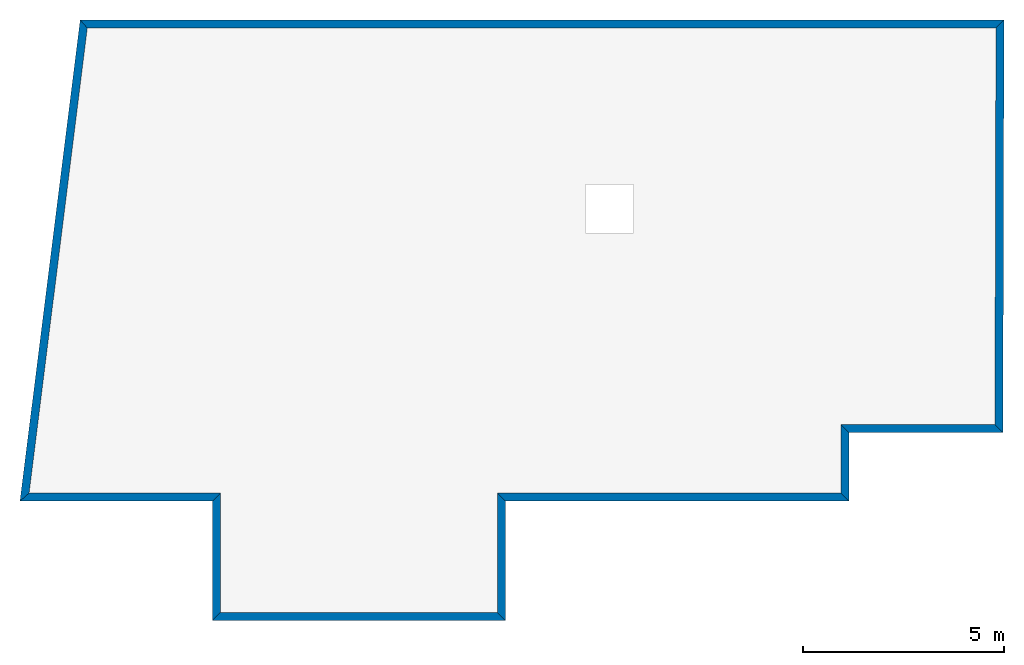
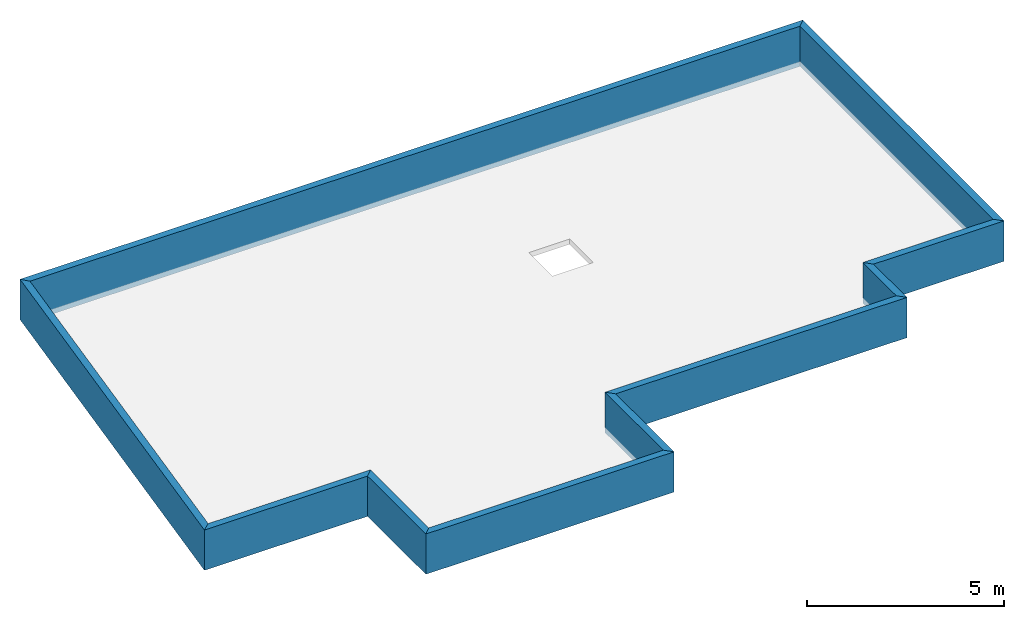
# One storey, part 1 of 2: 10 walls.
"""IFC2X3 building model written with IfcOpenShell, lengths in metres."""

import ifcopenshell
import ifcopenshell.guid

model = None  # the IFC model being written
_history = None  # IfcOwnerHistory: only IFC2X3 demands one
_inside = {}  # id of a spatial element -> (the spatial element, [elements in it])
_under = {}  # id of a project, library or spatial element -> (it, [spatial elements below it])
_declared = {}  # id of a project -> (the project, [libraries it declares])
_typed = {}  # id of a type object -> (the type object, [elements of that type])
_made_of = {}  # id of a material, layer set ... -> (it, [elements and type objects made of it])


def new_model(schema):
    """Start an empty IFC model of exactly this schema.

    Asked for "IFC4X3", IfcOpenShell would pick the latest addendum, in which some entities
    have other attributes; the version numbers below select the first issue.
    IFC2X3 requires an IfcOwnerHistory on every rooted entity: one is made here for all.
    """
    global model, _history
    if schema == "IFC4X3":
        model = ifcopenshell.file(schema_version=(4, 3, 0, 0))
    else:
        model = ifcopenshell.file(schema=schema)
    _inside.clear()
    _under.clear()
    _declared.clear()
    _typed.clear()
    _made_of.clear()
    _history = None
    if model.schema == "IFC2X3":
        org = make("IfcOrganization", Name="unknown")
        user = make(
            "IfcPersonAndOrganization",
            ThePerson=make("IfcPerson", FamilyName="unknown"),
            TheOrganization=org,
        )
        app = make(
            "IfcApplication",
            ApplicationDeveloper=org,
            Version="unknown",
            ApplicationFullName="unknown",
            ApplicationIdentifier="unknown",
        )
        _history = make(
            "IfcOwnerHistory",
            OwningUser=user,
            OwningApplication=app,
            ChangeAction="ADDED",
            CreationDate=0,
        )
    return model


def make(cls, **values):
    """One entity of the class cls with the attributes given. An attribute that is None is left unset."""
    return model.create_entity(
        cls, **{name: value for name, value in values.items() if value is not None}
    )


def rooted(cls, **values):
    """An entity with a GlobalId (a new one), such as an element, a storey or a relation."""
    return make(cls, GlobalId=ifcopenshell.guid.new(), OwnerHistory=_history, **values)


def si_unit(unit_type, name, prefix=None):
    """IfcSIUnit, for example si_unit("LENGTHUNIT", "METRE", prefix="MILLI")."""
    return make("IfcSIUnit", UnitType=unit_type, Prefix=prefix, Name=name)


def assignment(units):
    """IfcUnitAssignment: the units of a project."""
    return None if units is None else make("IfcUnitAssignment", Units=units)


def point(xyz):
    """IfcCartesianPoint."""
    return None if xyz is None else make("IfcCartesianPoint", Coordinates=xyz)


def direction(xyz):
    """IfcDirection."""
    return None if xyz is None else make("IfcDirection", DirectionRatios=xyz)


def frame(location, z_axis=None, x_axis=None):
    """IfcAxis2Placement3D, a coordinate frame: its origin and axes. An axis left out is left unset."""
    return make(
        "IfcAxis2Placement3D",
        Location=point(location),
        Axis=direction(z_axis),
        RefDirection=direction(x_axis),
    )


def origin_with_axes():
    """The frame at (0, 0, 0) with the z axis (0, 0, 1) and the x axis (1, 0, 0) written out."""
    return frame((0.0, 0.0, 0.0), z_axis=(0.0, 0.0, 1.0), x_axis=(1.0, 0.0, 0.0))


def place(relative_to, where):
    """IfcLocalPlacement: puts the frame where relative to a parent placement (None: the world)."""
    return make(
        "IfcLocalPlacement", PlacementRelTo=relative_to, RelativePlacement=where
    )


def context(
    kind, dimensions, precision=None, world=None, true_north=None, identifier=None
):
    """IfcGeometricRepresentationContext, for example the 3D "Model" context."""
    return make(
        "IfcGeometricRepresentationContext",
        ContextIdentifier=identifier,
        ContextType=kind,
        CoordinateSpaceDimension=dimensions,
        Precision=precision,
        WorldCoordinateSystem=world,
        TrueNorth=true_north,
    )


def subcontext(parent, identifier, kind, view, scale=None):
    """IfcGeometricRepresentationSubContext, for example "Body" below "Model"."""
    return make(
        "IfcGeometricRepresentationSubContext",
        ContextIdentifier=identifier,
        ContextType=kind,
        ParentContext=parent,
        TargetScale=scale,
        TargetView=view,
    )


def project(units=None, contexts=None):
    """IfcProject with its units and contexts."""
    return rooted(
        "IfcProject",
        Name="project",
        RepresentationContexts=contexts,
        UnitsInContext=assignment(units),
    )


def spatial(cls, under=None, at=None, **own):
    """A site, building, storey or space (cls), placed at a placement, below another one or the project."""
    s = rooted(cls, ObjectPlacement=at, **own)
    if under is not None:
        _under.setdefault(under.id(), (under, []))[1].append(s)
    return s


def polyline(points):
    """IfcPolyline through the points."""
    return make("IfcPolyline", Points=[point(p) for p in points])


def outline(outer, holes=None, kind="AREA"):
    """IfcArbitraryClosedProfileDef: a profile drawn as a closed curve; with holes, ...WithVoids."""
    if holes is None:
        return make("IfcArbitraryClosedProfileDef", ProfileType=kind, OuterCurve=outer)
    return make(
        "IfcArbitraryProfileDefWithVoids",
        ProfileType=kind,
        OuterCurve=outer,
        InnerCurves=holes,
    )


def extrude(swept, where, along, depth):
    """IfcExtrudedAreaSolid: the profile swept, set in the frame where, extruded along a direction by depth."""
    return make(
        "IfcExtrudedAreaSolid",
        SweptArea=swept,
        Position=where,
        ExtrudedDirection=direction(along),
        Depth=depth,
    )


def shape(context_of_items, identifier, shape_type, items):
    """IfcShapeRepresentation: the items that make up one representation, for example the "Body"."""
    return make(
        "IfcShapeRepresentation",
        ContextOfItems=context_of_items,
        RepresentationIdentifier=identifier,
        RepresentationType=shape_type,
        Items=items,
    )


def material(Name=None, Category=None):
    """IfcMaterial."""
    return make("IfcMaterial", Name=Name, Category=Category)


def layer(
    of_material, thickness, ventilated=None, Name=None, Category=None, Priority=None
):
    """IfcMaterialLayer: one layer of a wall or slab, of a material (None: an air gap)."""
    return make(
        "IfcMaterialLayer",
        Material=of_material,
        LayerThickness=thickness,
        IsVentilated=ventilated,
        Name=Name,
        Category=Category,
        Priority=Priority,
    )


def layer_set(layers, Name=None):
    """IfcMaterialLayerSet."""
    return make("IfcMaterialLayerSet", MaterialLayers=layers, LayerSetName=Name)


def layer_usage(for_layer_set, set_direction, sense, offset, extent=None):
    """IfcMaterialLayerSetUsage: how a layer set lies in its element."""
    return make(
        "IfcMaterialLayerSetUsage",
        ForLayerSet=for_layer_set,
        LayerSetDirection=set_direction,
        DirectionSense=sense,
        OffsetFromReferenceLine=offset,
        ReferenceExtent=extent,
    )


def made_of(thing, what):
    """Note that an element or type object is made of a material, layer set ...; save() writes the relation."""
    if what is not None:
        _made_of.setdefault(what.id(), (what, []))[1].append(thing)
    return thing


def type_object(cls, material=None, **own):
    """A type object (cls), such as IfcWallType, which elements share."""
    return made_of(rooted(cls, **own), material)


def element(
    cls,
    number,
    at=None,
    inside=None,
    cuts=None,
    type_object=None,
    material=None,
    context=None,
    identifier="Body",
    shape_type=None,
    held_by="IfcProductDefinitionShape",
    body=None,
    shapes=None,
    **own,
):
    """One element of the class cls, such as IfcWall. Its Tag is "e" and its number.

    at: its placement. inside: the storey or other place that contains it. cuts: it is an
    opening in that element (IfcRelVoidsElement). A single representation is given by context,
    identifier, shape_type and body (its items); several are given by shapes. held_by: the class
    of the entity that holds the representations. save() writes the other relations.
    """
    e = rooted(cls, Tag="e%d" % number, ObjectPlacement=at, **own)
    if body is not None:
        shapes = [shape(context, identifier, shape_type, body)]
    if shapes is not None:
        e.Representation = make(held_by, Representations=shapes)
    if inside is not None:
        _inside.setdefault(inside.id(), (inside, []))[1].append(e)
    if cuts is not None:
        rooted(
            "IfcRelVoidsElement", RelatingBuildingElement=cuts, RelatedOpeningElement=e
        )
    if type_object is not None:
        _typed.setdefault(type_object.id(), (type_object, []))[1].append(e)
    return made_of(e, material)


def aggregate(whole, parts):
    """IfcRelAggregates: a whole, such as a stair, and the parts it consists of."""
    return rooted("IfcRelAggregates", RelatingObject=whole, RelatedObjects=parts)


def save(model, path):
    """Write the relations noted so far, then the file.

    IfcRelAggregates (storeys below a building ...), IfcRelContainedInSpatialStructure (elements
    in a storey), IfcRelDefinesByType, IfcRelAssociatesMaterial and IfcRelDeclares: one each for
    every whole, place, type object, material and project.
    """
    for whole, parts in _under.values():
        aggregate(whole, parts)
    for where, things in _inside.values():
        rooted(
            "IfcRelContainedInSpatialStructure",
            RelatedElements=things,
            RelatingStructure=where,
        )
    for kind, things in _typed.values():
        rooted("IfcRelDefinesByType", RelatedObjects=things, RelatingType=kind)
    for what, things in _made_of.values():
        rooted("IfcRelAssociatesMaterial", RelatedObjects=things, RelatingMaterial=what)
    for by, libraries in _declared.values():
        rooted("IfcRelDeclares", RelatingContext=by, RelatedDefinitions=libraries)
    model.write(path)


model = new_model("IFC2X3")

# Units and contexts
model_context = context("Model", 3, precision=0.0001, world=origin_with_axes(), true_north=direction((0.0, 1.0)))
plan_context = context("Plan", 2, precision=0.0001, world=origin_with_axes(), true_north=direction((0.0, 1.0)))
body_context = subcontext(model_context, "Body", "Model", "MODEL_VIEW")
ifc_project = project(units=[si_unit("LENGTHUNIT", "METRE"), si_unit("AREAUNIT", "SQUARE_METRE"), si_unit("MASSUNIT", "GRAM", prefix="KILO"), si_unit("VOLUMEUNIT", "CUBIC_METRE")], contexts=[plan_context, model_context])

# Site, building, storey
site_placement = place(None, origin_with_axes())
site = spatial("IfcSite", under=ifc_project, at=site_placement, Name="$", CompositionType="ELEMENT")
building_placement = place(site_placement, origin_with_axes())
building = spatial("IfcBuilding", under=site, at=building_placement, Name="Classeur ENS Ensemble", CompositionType="ELEMENT")
storey_placement = place(building_placement, frame((-20.93597535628, -2.587550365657, 8.73), z_axis=(0.0, 0.0, 1.0), x_axis=(1.0, 0.0, 0.0)))
storey = spatial("IfcBuildingStorey", under=building, at=storey_placement, Name="004 Toiture Terrasse", CompositionType="ELEMENT", Elevation=8.73)

# Walls
ifc_material_1 = material(Name="acrotère Blocs à bancher 20 cm")
ifc_layer_1 = layer(ifc_material_1, 0.2000000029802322)
ifc_layer_set_1 = layer_set([ifc_layer_1], Name="acrotère Blocs à bancher 20 cm+")
ifc_layer_usage_1 = layer_usage(ifc_layer_set_1, "AXIS2", "POSITIVE", -0.1000000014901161)
wall_type = type_object("IfcWallType", PredefinedType="STANDARD")
wall_1_placement = place(storey_placement, frame((21.04189274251, 2.467550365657, 0.0), z_axis=(0.0, 0.0, 1.0), x_axis=(1.0, 0.0, 0.0)))
element("IfcWall", 1, at=wall_1_placement, inside=storey, type_object=wall_type, material=ifc_layer_usage_1, Name="acrotère Blocs à bancher 20 cm", context=body_context, shape_type="SweptSolid", held_by="IfcProductRepresentation", body=[
    extrude(outline(polyline([(-0.08826448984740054, 0.1000000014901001), (-0.08826448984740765, 0.1000000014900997), (-0.08826448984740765, 0.1000000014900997), (22.87530791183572, 0.1000000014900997), (22.87530791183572, 0.1000000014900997), (22.87530791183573, 0.1000000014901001), (22.67479912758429, -0.1000000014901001), (22.67479912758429, -0.1000000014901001), (22.67479912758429, -0.1000000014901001), (0.08826448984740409, -0.1000000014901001), (0.08826448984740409, -0.1000000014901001), (0.08826448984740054, -0.1000000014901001), (-0.08826448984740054, 0.1000000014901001)])), origin_with_axes(), (0.0, 0.0, 1.0), 1.25),
])
ifc_material_2 = material(Name="acrotère Blocs à bancher 20 cm")
ifc_layer_2 = layer(ifc_material_2, 0.2000000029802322)
ifc_layer_set_2 = layer_set([ifc_layer_2], Name="acrotère Blocs à bancher 20 cm+")
ifc_layer_usage_2 = layer_usage(ifc_layer_set_2, "AXIS2", "POSITIVE", -0.1000000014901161)
wall_2_placement = place(storey_placement, frame((43.79138714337, -7.592406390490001, 0.0), z_axis=(0.0, 0.0, 1.0), x_axis=(0.002540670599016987, 0.9999967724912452, 0.0)))
element("IfcWall", 2, at=wall_2_placement, inside=storey, type_object=wall_type, material=ifc_layer_usage_2, Name="acrotère Blocs à bancher 20 cm", context=body_context, shape_type="SweptSolid", held_by="IfcProductRepresentation", body=[
    extrude(outline(polyline([(0.09974625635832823, 0.1000000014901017), (0.09974625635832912, 0.1000000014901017), (0.09974625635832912, 0.1000000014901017), (9.95973483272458, 0.1000000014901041), (9.95973483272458, 0.1000000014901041), (9.95973483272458, 0.100000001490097), (10.16024361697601, -0.1000000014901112), (10.16024361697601, -0.1000000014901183), (10.16024361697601, -0.1000000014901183), (-0.09974625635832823, -0.1000000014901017), (-0.09974625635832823, -0.1000000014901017), (-0.09974625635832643, -0.1000000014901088), (0.09974625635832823, 0.1000000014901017)])), origin_with_axes(), (0.0, 0.0, 1.0), 1.25),
])
ifc_material_3 = material(Name="acrotère Blocs à bancher 20 cm")
ifc_layer_3 = layer(ifc_material_3, 0.2000000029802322)
ifc_layer_set_3 = layer_set([ifc_layer_3], Name="acrotère Blocs à bancher 20 cm+")
ifc_layer_usage_3 = layer_usage(ifc_layer_set_3, "AXIS2", "POSITIVE", -0.1000000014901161)
wall_3_placement = place(storey_placement, frame((39.96457268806, -7.592406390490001, 0.0), z_axis=(0.0, 0.0, 1.0), x_axis=(1.0, 0.0, 0.0)))
element("IfcWall", 3, at=wall_3_placement, inside=storey, type_object=wall_type, material=ifc_layer_usage_3, Name="acrotère Blocs à bancher 20 cm", context=body_context, shape_type="SweptSolid", held_by="IfcProductRepresentation", body=[
    extrude(outline(polyline([(-0.1000000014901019, 0.1000000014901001), (-0.1000000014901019, 0.1000000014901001), (-0.1000000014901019, 0.1000000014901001), (3.72706819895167, 0.100000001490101), (3.72706819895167, 0.100000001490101), (3.727068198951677, 0.1000000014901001), (3.926560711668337, -0.1000000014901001), (3.926560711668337, -0.1000000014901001), (3.926560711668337, -0.1000000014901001), (0.1000000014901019, -0.1000000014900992), (0.1000000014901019, -0.1000000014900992), (0.1000000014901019, -0.1000000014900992), (-0.1000000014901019, 0.1000000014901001)])), origin_with_axes(), (0.0, 0.0, 1.0), 1.25),
])
ifc_material_4 = material(Name="acrotère Blocs à bancher 20 cm")
ifc_layer_4 = layer(ifc_material_4, 0.2000000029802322)
ifc_layer_set_4 = layer_set([ifc_layer_4], Name="acrotère Blocs à bancher 20 cm+")
ifc_layer_usage_4 = layer_usage(ifc_layer_set_4, "AXIS2", "POSITIVE", -0.1000000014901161)
wall_4_placement = place(storey_placement, frame((39.96457268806, -9.292449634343, 0.0), z_axis=(0.0, 0.0, 1.0), x_axis=(0.0, 0.9999999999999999, 0.0)))
element("IfcWall", 4, at=wall_4_placement, inside=storey, type_object=wall_type, material=ifc_layer_usage_4, Name="acrotère Blocs à bancher 20 cm", context=body_context, shape_type="SweptSolid", held_by="IfcProductRepresentation", body=[
    extrude(outline(polyline([(0.1000000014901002, 0.1000000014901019), (0.1000000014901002, 0.1000000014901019), (0.1000000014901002, 0.1000000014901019), (1.800043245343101, 0.1000000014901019), (1.800043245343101, 0.1000000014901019), (1.800043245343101, 0.1000000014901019), (1.600043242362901, -0.1000000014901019), (1.600043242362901, -0.1000000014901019), (1.600043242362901, -0.1000000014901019), (-0.1000000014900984, -0.1000000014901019), (-0.1000000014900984, -0.1000000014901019), (-0.1000000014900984, -0.1000000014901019), (0.1000000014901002, 0.1000000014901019)])), origin_with_axes(), (0.0, 0.0, 1.0), 1.25),
])
ifc_material_5 = material(Name="acrotère Blocs à bancher 20 cm")
ifc_layer_5 = layer(ifc_material_5, 0.2000000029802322)
ifc_layer_set_5 = layer_set([ifc_layer_5], Name="acrotère Blocs à bancher 20 cm+")
ifc_layer_usage_5 = layer_usage(ifc_layer_set_5, "AXIS2", "POSITIVE", -0.1000000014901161)
wall_5_placement = place(storey_placement, frame((31.4214817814, -9.292449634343, 0.0), z_axis=(0.0, 0.0, 1.0), x_axis=(1.0, 0.0, 0.0)))
element("IfcWall", 5, at=wall_5_placement, inside=storey, type_object=wall_type, material=ifc_layer_usage_5, Name="acrotère Blocs à bancher 20 cm", context=body_context, shape_type="SweptSolid", held_by="IfcProductRepresentation", body=[
    extrude(outline(polyline([(-0.1000000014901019, 0.1000000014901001), (-0.1000000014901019, 0.1000000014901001), (-0.1000000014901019, 0.1000000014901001), (8.443090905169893, 0.1000000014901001), (8.443090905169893, 0.1000000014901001), (8.443090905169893, 0.1000000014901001), (8.643090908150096, -0.1000000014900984), (8.643090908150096, -0.1000000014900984), (8.643090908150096, -0.1000000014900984), (0.1000000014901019, -0.1000000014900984), (0.1000000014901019, -0.1000000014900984), (0.1000000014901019, -0.1000000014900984), (-0.1000000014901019, 0.1000000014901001)])), origin_with_axes(), (0.0, 0.0, 1.0), 1.25),
])
ifc_material_6 = material(Name="acrotère Blocs à bancher 20 cm")
ifc_layer_6 = layer(ifc_material_6, 0.2000000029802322)
ifc_layer_set_6 = layer_set([ifc_layer_6], Name="acrotère Blocs à bancher 20 cm+")
ifc_layer_usage_6 = layer_usage(ifc_layer_set_6, "AXIS2", "POSITIVE", -0.1000000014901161)
wall_6_placement = place(storey_placement, frame((31.4214817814, -12.25744963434, 0.0), z_axis=(0.0, 0.0, 1.0), x_axis=(0.0, 1.0, 0.0)))
element("IfcWall", 6, at=wall_6_placement, inside=storey, type_object=wall_type, material=ifc_layer_usage_6, Name="acrotère Blocs à bancher 20 cm", context=body_context, shape_type="SweptSolid", held_by="IfcProductRepresentation", body=[
    extrude(outline(polyline([(0.1000000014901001, 0.1000000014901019), (0.1000000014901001, 0.1000000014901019), (0.1000000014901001, 0.1000000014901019), (3.0650000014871, 0.1000000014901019), (3.0650000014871, 0.1000000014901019), (3.0650000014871, 0.1000000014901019), (2.864999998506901, -0.1000000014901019), (2.864999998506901, -0.1000000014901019), (2.864999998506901, -0.1000000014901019), (-0.1000000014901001, -0.1000000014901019), (-0.1000000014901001, -0.1000000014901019), (-0.1000000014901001, -0.1000000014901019), (0.1000000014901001, 0.1000000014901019)])), origin_with_axes(), (0.0, 0.0, 1.0), 1.25),
])
ifc_material_7 = material(Name="acrotère Blocs à bancher 20 cm")
ifc_layer_7 = layer(ifc_material_7, 0.2000000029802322)
ifc_layer_set_7 = layer_set([ifc_layer_7], Name="acrotère Blocs à bancher 20 cm+")
ifc_layer_usage_7 = layer_usage(ifc_layer_set_7, "AXIS2", "POSITIVE", -0.1000000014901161)
wall_7_placement = place(storey_placement, frame((24.3414817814, -12.25744963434, 0.0), z_axis=(0.0, 0.0, 1.0), x_axis=(1.0, 0.0, 0.0)))
element("IfcWall", 7, at=wall_7_placement, inside=storey, type_object=wall_type, material=ifc_layer_usage_7, Name="acrotère Blocs à bancher 20 cm", context=body_context, shape_type="SweptSolid", held_by="IfcProductRepresentation", body=[
    extrude(outline(polyline([(0.1000000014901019, 0.1000000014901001), (0.1000000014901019, 0.1000000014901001), (0.1000000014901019, 0.1000000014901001), (6.979999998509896, 0.1000000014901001), (6.979999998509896, 0.1000000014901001), (6.979999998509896, 0.1000000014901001), (7.1800000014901, -0.1000000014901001), (7.1800000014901, -0.1000000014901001), (7.1800000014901, -0.1000000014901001), (-0.1000000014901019, -0.1000000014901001), (-0.1000000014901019, -0.1000000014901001), (-0.1000000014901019, -0.1000000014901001), (0.1000000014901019, 0.1000000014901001)])), origin_with_axes(), (0.0, 0.0, 1.0), 1.25),
])
ifc_material_8 = material(Name="acrotère Blocs à bancher 20 cm")
ifc_layer_8 = layer(ifc_material_8, 0.2000000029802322)
ifc_layer_set_8 = layer_set([ifc_layer_8], Name="acrotère Blocs à bancher 20 cm+")
ifc_layer_usage_8 = layer_usage(ifc_layer_set_8, "AXIS2", "POSITIVE", -0.1000000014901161)
wall_8_placement = place(storey_placement, frame((24.3414817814, -12.25744963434, 0.0), z_axis=(0.0, 0.0, 1.0), x_axis=(0.0, 1.0, 0.0)))
element("IfcWall", 8, at=wall_8_placement, inside=storey, type_object=wall_type, material=ifc_layer_usage_8, Name="acrotère Blocs à bancher 20 cm", context=body_context, shape_type="SweptSolid", held_by="IfcProductRepresentation", body=[
    extrude(outline(polyline([(-0.1000000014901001, 0.1000000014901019), (-0.1000000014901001, 0.1000000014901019), (-0.1000000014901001, 0.1000000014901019), (2.864999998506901, 0.1000000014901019), (2.864999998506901, 0.1000000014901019), (2.864999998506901, 0.1000000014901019), (3.0650000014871, -0.1000000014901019), (3.0650000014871, -0.1000000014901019), (3.0650000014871, -0.1000000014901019), (0.1000000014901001, -0.1000000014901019), (0.1000000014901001, -0.1000000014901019), (0.1000000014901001, -0.1000000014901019), (-0.1000000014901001, 0.1000000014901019)])), origin_with_axes(), (0.0, 0.0, 1.0), 1.25),
])
ifc_material_9 = material(Name="acrotère Blocs à bancher 20 cm")
ifc_layer_9 = layer(ifc_material_9, 0.2000000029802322)
ifc_layer_set_9 = layer_set([ifc_layer_9], Name="acrotère Blocs à bancher 20 cm+")
ifc_layer_usage_9 = layer_usage(ifc_layer_set_9, "AXIS2", "POSITIVE", -0.1000000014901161)
wall_9_placement = place(storey_placement, frame((19.57004885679, -9.292449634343, 0.0), z_axis=(0.0, 0.0, 1.0), x_axis=(1.0, 0.0, 0.0)))
element("IfcWall", 9, at=wall_9_placement, inside=storey, type_object=wall_type, material=ifc_layer_usage_9, Name="acrotère Blocs à bancher 20 cm", context=body_context, shape_type="SweptSolid", held_by="IfcProductRepresentation", body=[
    extrude(outline(polyline([(0.1132958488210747, 0.1000000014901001), (0.1132958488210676, 0.1000000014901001), (0.1132958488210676, 0.1000000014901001), (4.871432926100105, 0.1000000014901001), (4.871432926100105, 0.1000000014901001), (4.871432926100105, 0.1000000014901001), (4.671432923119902, -0.1000000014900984), (4.671432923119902, -0.1000000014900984), (4.671432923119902, -0.1000000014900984), (-0.1132958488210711, -0.1000000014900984), (-0.1132958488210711, -0.1000000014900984), (-0.1132958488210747, -0.1000000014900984), (0.1132958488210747, 0.1000000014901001)])), origin_with_axes(), (0.0, 0.0, 1.0), 1.25),
])
ifc_material_10 = material(Name="acrotère Blocs à bancher 20 cm")
ifc_layer_10 = layer(ifc_material_10, 0.2000000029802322)
ifc_layer_set_10 = layer_set([ifc_layer_10], Name="acrotère Blocs à bancher 20 cm+")
ifc_layer_usage_10 = layer_usage(ifc_layer_set_10, "AXIS2", "POSITIVE", -0.1000000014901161)
wall_10_placement = place(storey_placement, frame((19.57004885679, -9.292449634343, 0.0), z_axis=(0.0, 0.0, 1.0), x_axis=(0.1241879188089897, 0.992258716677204, 0.0)))
element("IfcWall", 10, at=wall_10_placement, inside=storey, type_object=wall_type, material=ifc_layer_usage_10, Name="acrotère Blocs à bancher 20 cm", context=body_context, shape_type="SweptSolid", held_by="IfcProductRepresentation", body=[
    extrude(outline(polyline([(-0.1132958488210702, 0.1000000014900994), (-0.113295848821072, 0.1000000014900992), (-0.113295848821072, 0.1000000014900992), (11.94001222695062, 0.1000000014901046), (11.94001222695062, 0.1000000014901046), (11.94001222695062, 0.1000000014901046), (11.76348324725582, -0.1000000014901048), (11.76348324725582, -0.1000000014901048), (11.76348324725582, -0.1000000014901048), (0.1132958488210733, -0.1000000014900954), (0.1132958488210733, -0.1000000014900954), (0.1132958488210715, -0.1000000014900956), (-0.1132958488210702, 0.1000000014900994)])), origin_with_axes(), (0.0, 0.0, 1.0), 1.25),
])

save(model, "model.ifc")
